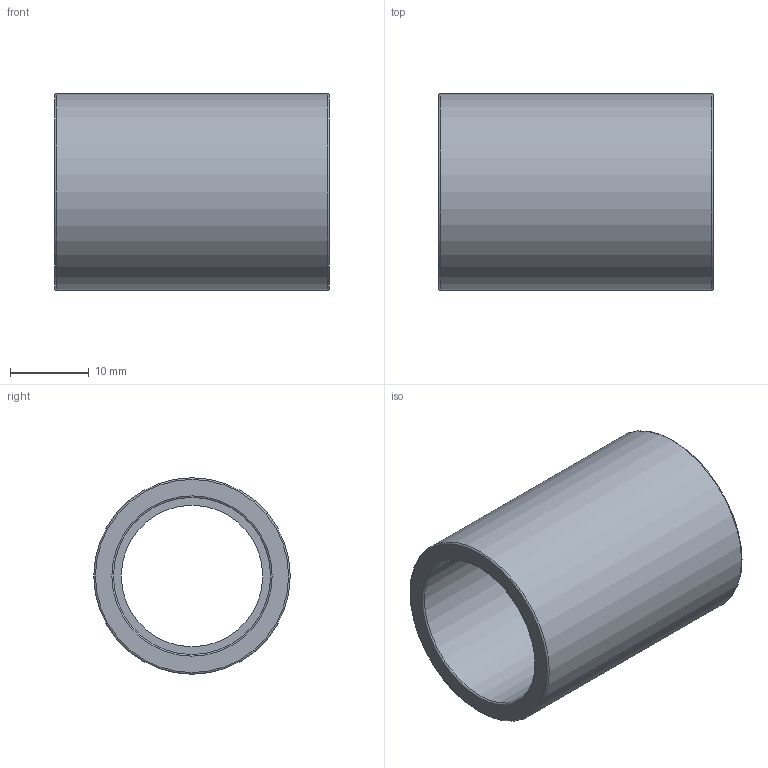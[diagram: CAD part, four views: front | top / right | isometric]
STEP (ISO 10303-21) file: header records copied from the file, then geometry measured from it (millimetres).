
FILE_DESCRIPTION(/* description */ ('PLASSON SOCKET PVC 20 - CEMENT'),/* implementation_level */ '2;1');
FILE_NAME(/* name */ 'C:\Dropbox\KIMPROJECTS-Inventor\99-16-3568-Processing\PVC Catalog 2017\050100\050100020.ipt.stp',/* time_stamp */ '2017-12-07T15:51:19+02:00',/* author */ ('KIM'),/* organization */ (''),/* preprocessor_version */ 'ST-DEVELOPER v15.6',/* originating_system */ 'Autodesk Inventor 2015',/* authorisation */ '');
FILE_SCHEMA (('AUTOMOTIVE_DESIGN { 1 0 10303 214 3 1 1 }'));
Length unit declared in the file: millimetre
Products named in the file (1): 050100020
Bounding box: 35 x 25 x 25 mm (x, y, z)
Volume: 6361.7 mm3; surface area: 5377.7 mm2
Topology: 1 solids, 1 shells, 12 faces, 20 edges, 12 vertices
Faces by surface type: torus 4, plane 4, cylinder 4
Full cylindrical faces by diameter (mm): 18 x1, 20 x2, 25 x1
Entity records: 272 total; most frequent: DIRECTION 50, CARTESIAN_POINT 37, AXIS2_PLACEMENT_3D 25, EDGE_LOOP 24, ORIENTED_EDGE 24, FACE_BOUND 12, FACE_OUTER_BOUND 12, CIRCLE 12
